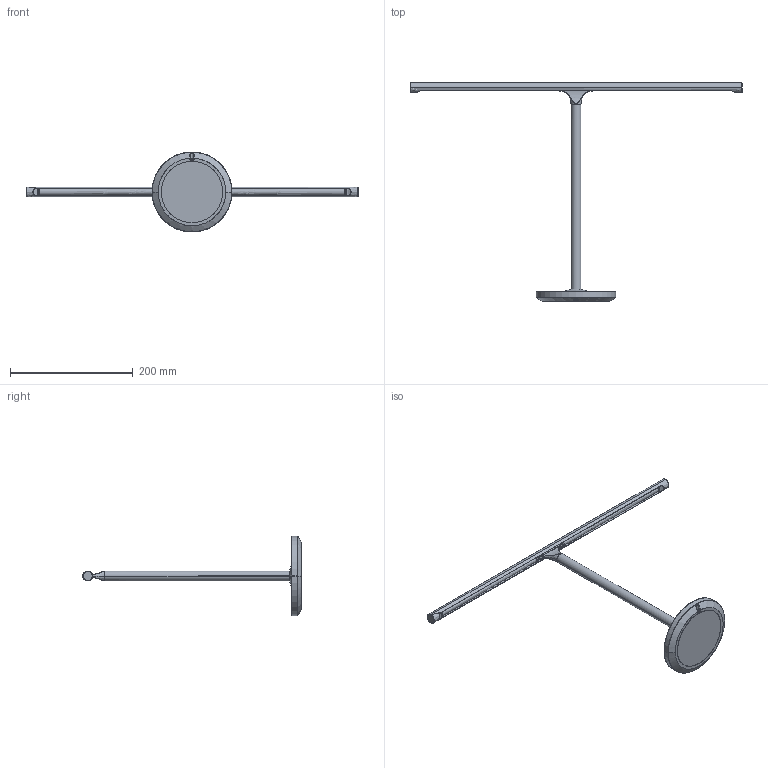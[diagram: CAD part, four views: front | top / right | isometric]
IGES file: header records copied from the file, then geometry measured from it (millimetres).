
Start section: SolidWorks IGES file using analytic representation for surfaces
Global section: file name: C:\Users\scott\Dropbox\Rakumba Industrial Design\PRODUCT\2 DEVELOPMENT\GALLERY\CAD\Gallery Lightweight CAD\Gallery - 540 Bankers Lamp.IGS; native system: SolidWorks 2017; preprocessor: SolidWorks 2017; author: scott; date: 240403.173223; units: millimetre
Bounding box: 540 x 355.5 x 130 mm (x, y, z)
Surface area: 95413 mm2 (no closed solid volume)
Topology: 0 solids, 0 shells, 220 faces, 3264 edges, 3260 vertices
Faces by surface type: bspline 146, revolution 74
